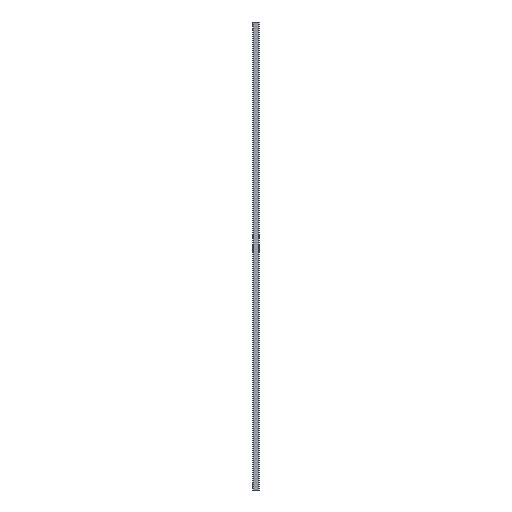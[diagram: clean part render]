
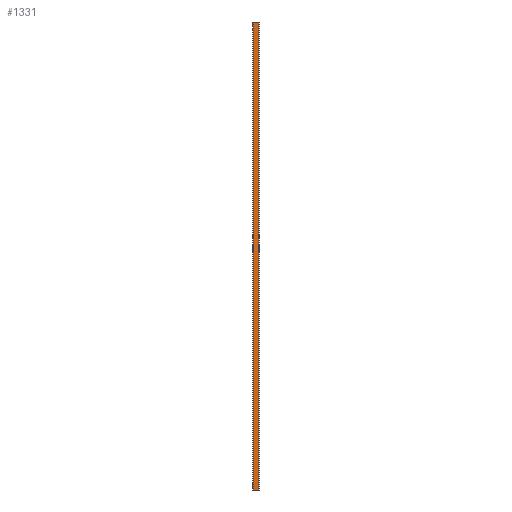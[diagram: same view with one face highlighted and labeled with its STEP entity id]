
A CAD part, left-side view. The second image highlights one B-rep face of the part: STEP entity #1331.
In plain terms, the highlighted planar face has unit normal (-1, 0, 0).
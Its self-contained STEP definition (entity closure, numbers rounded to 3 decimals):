
#6 = ORIENTED_EDGE ( 'NONE', *, *, #219, .T. ) ;
#28 = ORIENTED_EDGE ( 'NONE', *, *, #1228, .F. ) ;
#93 = DIRECTION ( 'NONE',  ( -1., 0., 0. ) ) ;
#108 = CARTESIAN_POINT ( 'NONE',  ( -8., 3.2, 0. ) ) ;
#109 = DIRECTION ( 'NONE',  ( 0., -1., 0. ) ) ;
#114 = EDGE_CURVE ( 'NONE', #987, #718, #362, .T. ) ;
#161 = EDGE_CURVE ( 'NONE', #718, #1449, #1573, .T. ) ;
#201 = DIRECTION ( 'NONE',  ( 0., 1., 0. ) ) ;
#219 = EDGE_CURVE ( 'NONE', #987, #1105, #1743, .T. ) ;
#227 = DIRECTION ( 'NONE',  ( 0., 0., -1. ) ) ;
#286 = ORIENTED_EDGE ( 'NONE', *, *, #458, .T. ) ;
#328 = VECTOR ( 'NONE', #1442, 1000. ) ;
#334 = ORIENTED_EDGE ( 'NONE', *, *, #114, .F. ) ;
#362 = LINE ( 'NONE', #630, #1185 ) ;
#366 = CARTESIAN_POINT ( 'NONE',  ( -8., 0., 879. ) ) ;
#406 = CARTESIAN_POINT ( 'NONE',  ( -8., 9.3, 0. ) ) ;
#429 = DIRECTION ( 'NONE',  ( 0., 0., -1. ) ) ;
#449 = LINE ( 'NONE', #604, #1040 ) ;
#458 = EDGE_CURVE ( 'NONE', #1374, #1060, #1309, .T. ) ;
#487 = EDGE_CURVE ( 'NONE', #1060, #527, #494, .T. ) ;
#494 = LINE ( 'NONE', #503, #1242 ) ;
#502 = DIRECTION ( 'NONE',  ( 0., 0., 1. ) ) ;
#503 = CARTESIAN_POINT ( 'NONE',  ( -8., 12.5, 879. ) ) ;
#527 = VERTEX_POINT ( 'NONE', #1156 ) ;
#567 = LINE ( 'NONE', #1650, #693 ) ;
#604 = CARTESIAN_POINT ( 'NONE',  ( -8., 0., 879. ) ) ;
#630 = CARTESIAN_POINT ( 'NONE',  ( -8., 0., 0. ) ) ;
#650 = LINE ( 'NONE', #1604, #1689 ) ;
#677 = CARTESIAN_POINT ( 'NONE',  ( -8., 0., 879. ) ) ;
#693 = VECTOR ( 'NONE', #429, 1000. ) ;
#715 = AXIS2_PLACEMENT_3D ( 'NONE', #890, #93, #502 ) ;
#718 = VERTEX_POINT ( 'NONE', #406 ) ;
#773 = EDGE_CURVE ( 'NONE', #527, #1449, #567, .T. ) ;
#785 = ORIENTED_EDGE ( 'NONE', *, *, #161, .F. ) ;
#862 = ORIENTED_EDGE ( 'NONE', *, *, #487, .T. ) ;
#890 = CARTESIAN_POINT ( 'NONE',  ( -8., 0., 879. ) ) ;
#935 = ORIENTED_EDGE ( 'NONE', *, *, #773, .T. ) ;
#987 = VERTEX_POINT ( 'NONE', #108 ) ;
#1017 = VERTEX_POINT ( 'NONE', #677 ) ;
#1040 = VECTOR ( 'NONE', #1390, 1000. ) ;
#1045 = DIRECTION ( 'NONE',  ( 0., 1., 0. ) ) ;
#1060 = VERTEX_POINT ( 'NONE', #1338 ) ;
#1066 = PLANE ( 'NONE',  #715 ) ;
#1076 = EDGE_LOOP ( 'NONE', ( #334, #6, #28, #1352, #286, #862, #935, #785 ) ) ;
#1105 = VERTEX_POINT ( 'NONE', #1283 ) ;
#1156 = CARTESIAN_POINT ( 'NONE',  ( -8., 12.5, 879. ) ) ;
#1185 = VECTOR ( 'NONE', #1193, 1000. ) ;
#1193 = DIRECTION ( 'NONE',  ( 0., 1., 0. ) ) ;
#1206 = CARTESIAN_POINT ( 'NONE',  ( -8., 12.5, 0. ) ) ;
#1228 = EDGE_CURVE ( 'NONE', #1017, #1105, #650, .T. ) ;
#1242 = VECTOR ( 'NONE', #201, 1000. ) ;
#1245 = VECTOR ( 'NONE', #1045, 1000. ) ;
#1283 = CARTESIAN_POINT ( 'NONE',  ( -8., 0., 0. ) ) ;
#1309 = LINE ( 'NONE', #366, #328 ) ;
#1331 = ADVANCED_FACE ( 'NONE', ( #1466 ), #1066, .T. ) ;
#1338 = CARTESIAN_POINT ( 'NONE',  ( -8., 9.3, 879. ) ) ;
#1352 = ORIENTED_EDGE ( 'NONE', *, *, #1666, .F. ) ;
#1374 = VERTEX_POINT ( 'NONE', #1596 ) ;
#1390 = DIRECTION ( 'NONE',  ( 0., -1., 0. ) ) ;
#1442 = DIRECTION ( 'NONE',  ( 0., 1., 0. ) ) ;
#1449 = VERTEX_POINT ( 'NONE', #1206 ) ;
#1465 = VECTOR ( 'NONE', #109, 1000. ) ;
#1466 = FACE_OUTER_BOUND ( 'NONE', #1076, .T. ) ;
#1573 = LINE ( 'NONE', #1735, #1245 ) ;
#1596 = CARTESIAN_POINT ( 'NONE',  ( -8., 3.2, 879. ) ) ;
#1604 = CARTESIAN_POINT ( 'NONE',  ( -8., 0., 879. ) ) ;
#1618 = CARTESIAN_POINT ( 'NONE',  ( -8., 0., 0. ) ) ;
#1650 = CARTESIAN_POINT ( 'NONE',  ( -8., 12.5, 879. ) ) ;
#1666 = EDGE_CURVE ( 'NONE', #1374, #1017, #449, .T. ) ;
#1689 = VECTOR ( 'NONE', #227, 1000. ) ;
#1735 = CARTESIAN_POINT ( 'NONE',  ( -8., 0., 0. ) ) ;
#1743 = LINE ( 'NONE', #1618, #1465 ) ;
